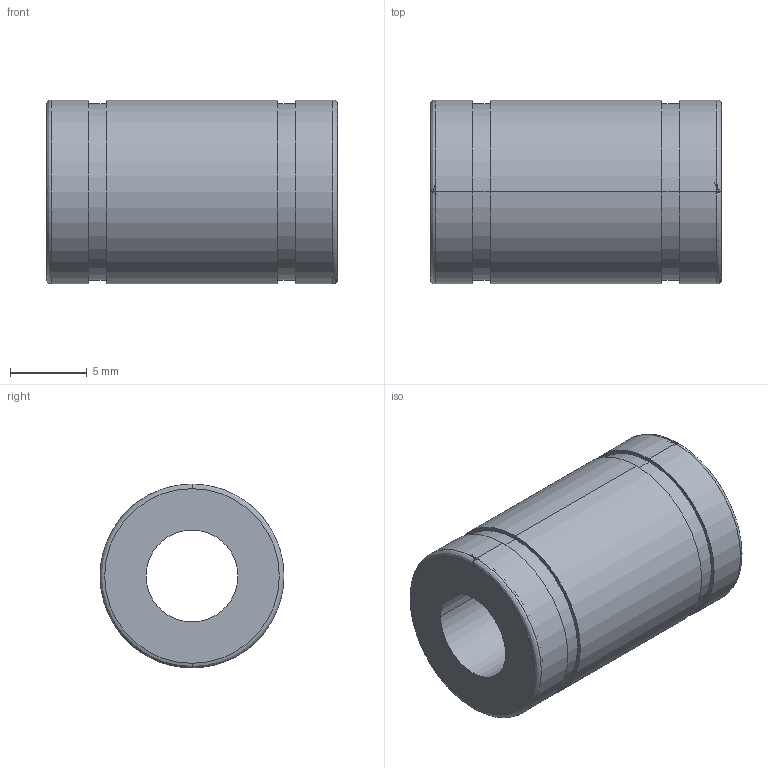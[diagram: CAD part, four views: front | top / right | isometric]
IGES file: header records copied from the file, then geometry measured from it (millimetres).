
Start section: 3D InterOp IGES (Version 21 0 1), Spatial Corp. Copyright (c) 1999-2007.
Global section: file name: L-6V.igs; native system: Spatial Corp.; preprocessor: 3D InterOp GENERIC/IGES 3.0; author: Noname; organization: Noname; date: 20220516.094052; units: millimetre
Bounding box: 19 x 12 x 12 mm (x, y, z)
Surface area: 1467.8 mm2 (no closed solid volume)
Topology: 0 solids, 0 shells, 22 faces, 96 edges, 92 vertices
Faces by surface type: revolution 16, extrusion 6
